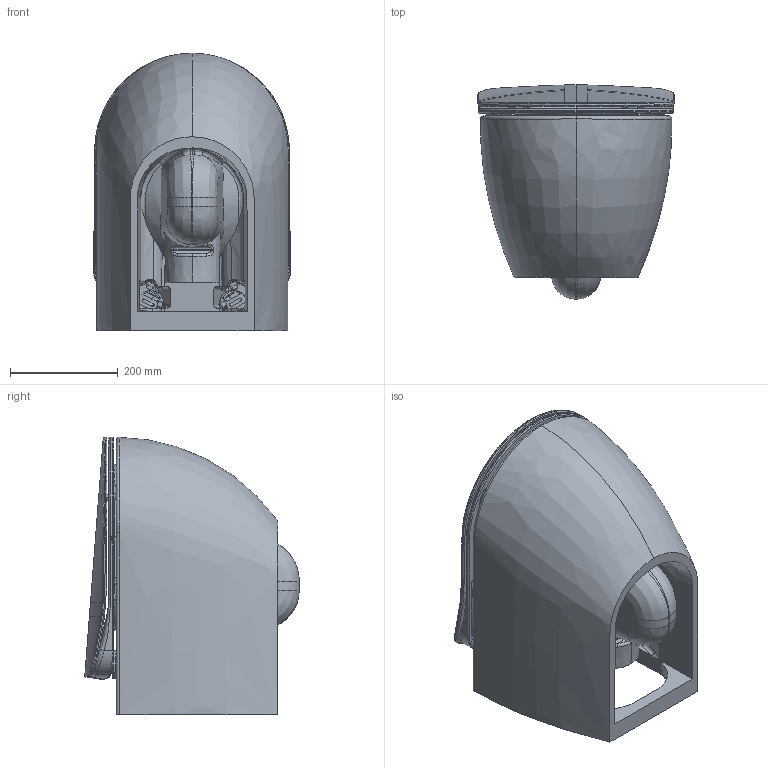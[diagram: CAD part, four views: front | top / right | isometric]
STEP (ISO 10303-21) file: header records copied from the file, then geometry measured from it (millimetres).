
FILE_DESCRIPTION (( 'STEP AP203' ), '1' );
FILE_NAME ('fe320-11cb00e-0000-kc0903-02-0000e (1).STEP', '2023-08-18T08:58:32', ( '' ), ( '' ), 'SwSTEP 2.0', 'SolidWorks 2023', '' );
FILE_SCHEMA (( 'CONFIG_CONTROL_DESIGN' ));
Products named in the file (1): fe320-11cb00e-0000-kc0903-02-0000e (1)
Bounding box: 365.26 x 397.99 x 514.95 mm (x, y, z)
Volume: 24263109.2 mm3; surface area: 1879402.7 mm2
Topology: 71 solids, 71 shells, 2571 faces, 6138 edges, 3877 vertices
Faces by surface type: cylinder 918, plane 761, bspline 596, cone 149, torus 132, sphere 15
Entity records: 220941 total; most frequent: CARTESIAN_POINT 165048, ORIENTED_EDGE 12128, DIRECTION 10709, EDGE_CURVE 6064, AXIS2_PLACEMENT_3D 4298, VERTEX_POINT 3877, EDGE_LOOP 2903, FACE_OUTER_BOUND 2571
